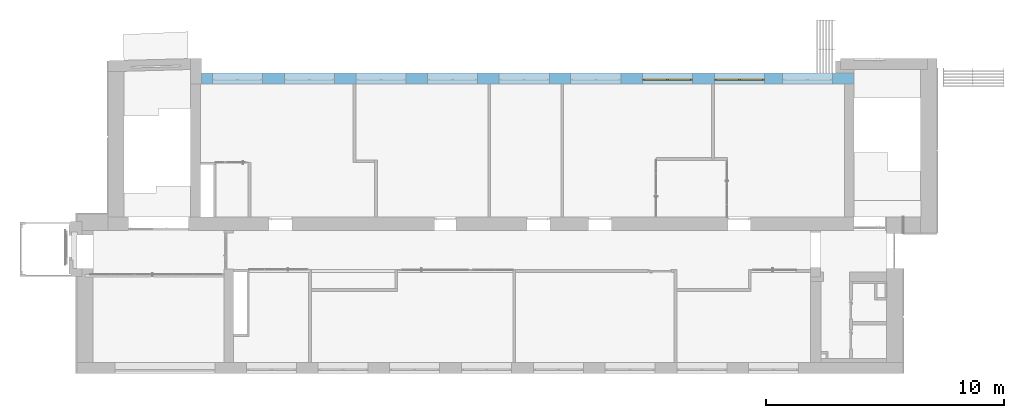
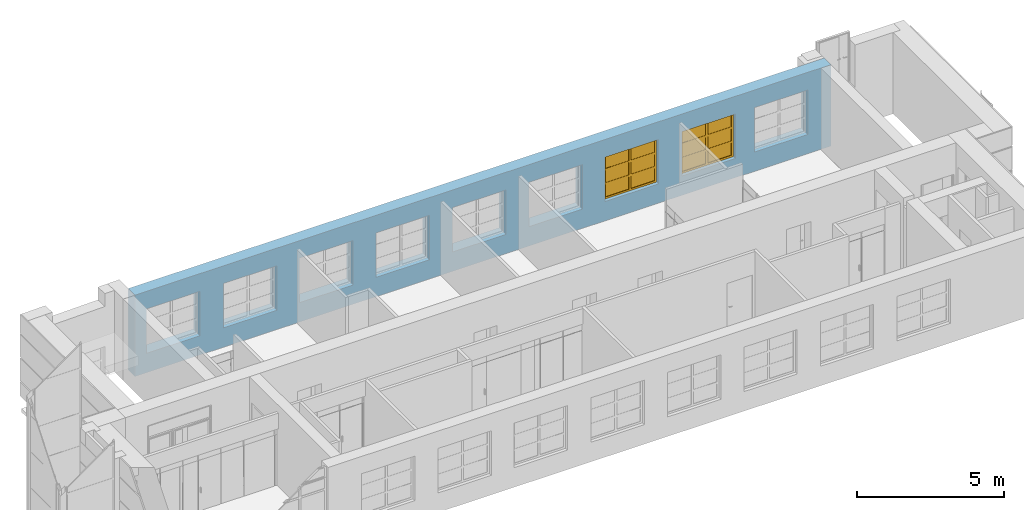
# One storey, part 54 of 66: 2 windows, 9 openings, plus 1 element that does not belong to this part.
"""IFC2X3 building model written with IfcOpenShell, lengths in millimetres."""

import ifcopenshell
import ifcopenshell.guid

model = None  # the IFC model being written
_history = None  # IfcOwnerHistory: only IFC2X3 demands one
_inside = {}  # id of a spatial element -> (the spatial element, [elements in it])
_under = {}  # id of a project, library or spatial element -> (it, [spatial elements below it])
_declared = {}  # id of a project -> (the project, [libraries it declares])
_typed = {}  # id of a type object -> (the type object, [elements of that type])
_made_of = {}  # id of a material, layer set ... -> (it, [elements and type objects made of it])


def new_model(schema):
    """Start an empty IFC model of exactly this schema.

    Asked for "IFC4X3", IfcOpenShell would pick the latest addendum, in which some entities
    have other attributes; the version numbers below select the first issue.
    IFC2X3 requires an IfcOwnerHistory on every rooted entity: one is made here for all.
    """
    global model, _history
    if schema == "IFC4X3":
        model = ifcopenshell.file(schema_version=(4, 3, 0, 0))
    else:
        model = ifcopenshell.file(schema=schema)
    _inside.clear()
    _under.clear()
    _declared.clear()
    _typed.clear()
    _made_of.clear()
    _history = None
    if model.schema == "IFC2X3":
        org = make("IfcOrganization", Name="unknown")
        user = make(
            "IfcPersonAndOrganization",
            ThePerson=make("IfcPerson", FamilyName="unknown"),
            TheOrganization=org,
        )
        app = make(
            "IfcApplication",
            ApplicationDeveloper=org,
            Version="unknown",
            ApplicationFullName="unknown",
            ApplicationIdentifier="unknown",
        )
        _history = make(
            "IfcOwnerHistory",
            OwningUser=user,
            OwningApplication=app,
            ChangeAction="ADDED",
            CreationDate=0,
        )
    return model


def make(cls, **values):
    """One entity of the class cls with the attributes given. An attribute that is None is left unset."""
    return model.create_entity(
        cls, **{name: value for name, value in values.items() if value is not None}
    )


def entity(cls, *values):
    """Any entity or typed value of the class cls, its attributes in the order of the schema. None: left unset."""
    e = model.create_entity(cls)
    for i, value in enumerate(values):
        if value is not None:
            e[i] = value
    return e


def rooted(cls, **values):
    """An entity with a GlobalId (a new one), such as an element, a storey or a relation."""
    return make(cls, GlobalId=ifcopenshell.guid.new(), OwnerHistory=_history, **values)


def si_unit(unit_type, name, prefix=None):
    """IfcSIUnit, for example si_unit("LENGTHUNIT", "METRE", prefix="MILLI")."""
    return make("IfcSIUnit", UnitType=unit_type, Prefix=prefix, Name=name)


def converted_unit(unit_type, name, factor, base, dimensions=None, offset=None):
    """IfcConversionBasedUnit, such as the inch: factor (a typed value) times the base unit."""
    return make(
        "IfcConversionBasedUnit"
        if offset is None
        else "IfcConversionBasedUnitWithOffset",
        ConversionOffset=offset,
        Dimensions=None
        if dimensions is None
        else entity("IfcDimensionalExponents", *dimensions),
        UnitType=unit_type,
        Name=name,
        ConversionFactor=make(
            "IfcMeasureWithUnit", ValueComponent=factor, UnitComponent=base
        ),
    )


def derived_unit(unit_type, elements):
    """IfcDerivedUnit: a product of units, each with its exponent."""
    return make(
        "IfcDerivedUnit",
        Elements=[
            make("IfcDerivedUnitElement", Unit=unit, Exponent=power)
            for unit, power in elements
        ],
        UnitType=unit_type,
    )


def assignment(units):
    """IfcUnitAssignment: the units of a project."""
    return None if units is None else make("IfcUnitAssignment", Units=units)


def point(xyz):
    """IfcCartesianPoint."""
    return None if xyz is None else make("IfcCartesianPoint", Coordinates=xyz)


def direction(xyz):
    """IfcDirection."""
    return None if xyz is None else make("IfcDirection", DirectionRatios=xyz)


def frame(location, z_axis=None, x_axis=None):
    """IfcAxis2Placement3D, a coordinate frame: its origin and axes. An axis left out is left unset."""
    return make(
        "IfcAxis2Placement3D",
        Location=point(location),
        Axis=direction(z_axis),
        RefDirection=direction(x_axis),
    )


def frame_2d(location, x_axis=None):
    """IfcAxis2Placement2D, a coordinate frame in the plane: its origin and x axis."""
    return make(
        "IfcAxis2Placement2D", Location=point(location), RefDirection=direction(x_axis)
    )


def origin():
    """The frame at (0, 0, 0) with its axes left unset."""
    return frame((0.0, 0.0, 0.0))


def origin_2d_with_axis():
    """The frame at (0, 0) in the plane with the x axis (1, 0) written out."""
    return frame_2d((0.0, 0.0), x_axis=(1.0, 0.0))


def place(relative_to, where):
    """IfcLocalPlacement: puts the frame where relative to a parent placement (None: the world)."""
    return make(
        "IfcLocalPlacement", PlacementRelTo=relative_to, RelativePlacement=where
    )


def context(
    kind, dimensions, precision=None, world=None, true_north=None, identifier=None
):
    """IfcGeometricRepresentationContext, for example the 3D "Model" context."""
    return make(
        "IfcGeometricRepresentationContext",
        ContextIdentifier=identifier,
        ContextType=kind,
        CoordinateSpaceDimension=dimensions,
        Precision=precision,
        WorldCoordinateSystem=world,
        TrueNorth=true_north,
    )


def subcontext(parent, identifier, kind, view, scale=None):
    """IfcGeometricRepresentationSubContext, for example "Body" below "Model"."""
    return make(
        "IfcGeometricRepresentationSubContext",
        ContextIdentifier=identifier,
        ContextType=kind,
        ParentContext=parent,
        TargetScale=scale,
        TargetView=view,
    )


def project(units=None, contexts=None):
    """IfcProject with its units and contexts."""
    return rooted(
        "IfcProject",
        Name="project",
        RepresentationContexts=contexts,
        UnitsInContext=assignment(units),
    )


def spatial(cls, under=None, at=None, **own):
    """A site, building, storey or space (cls), placed at a placement, below another one or the project."""
    s = rooted(cls, ObjectPlacement=at, **own)
    if under is not None:
        _under.setdefault(under.id(), (under, []))[1].append(s)
    return s


def profile(cls, at=None, kind="AREA", **sizes):
    """A parametric profile (cls). Its sizes go by their IFC names, for example OverallWidth=200.0."""
    return make(cls, ProfileType=kind, Position=at, **sizes)


def rectangle(**sizes):
    """IfcRectangleProfileDef."""
    return profile("IfcRectangleProfileDef", **sizes)


def extrude(swept, where, along, depth):
    """IfcExtrudedAreaSolid: the profile swept, set in the frame where, extruded along a direction by depth."""
    return make(
        "IfcExtrudedAreaSolid",
        SweptArea=swept,
        Position=where,
        ExtrudedDirection=direction(along),
        Depth=depth,
    )


def faces_of(points, faces, orient=None, outer=None):
    """IfcFace entities. A face is a list of loops; a loop is a list of indices into points, from 0.

    orient and outer hold one flag for each loop. By default every Orientation is true, the
    first loop of a face is its IfcFaceOuterBound and the others are IfcFaceBound.
    """
    made = []
    for i, loops in enumerate(faces):
        bounds = []
        for j, loop in enumerate(loops):
            is_outer = j == 0 if outer is None else outer[i][j]
            bounds.append(
                make(
                    "IfcFaceOuterBound" if is_outer else "IfcFaceBound",
                    Bound=make("IfcPolyLoop", Polygon=[points[k] for k in loop]),
                    Orientation=True if orient is None else orient[i][j],
                )
            )
        made.append(make("IfcFace", Bounds=bounds))
    return made


def face_set(faces, orient=None, outer=None):
    """The faces of one IfcConnectedFaceSet. surface_model builds it on its shared points."""
    return ("IfcConnectedFaceSet", faces, orient, outer)


def surface_model(cls, points, shells):
    """IfcFaceBasedSurfaceModel or IfcShellBasedSurfaceModel (cls): surfaces that need not close."""
    shared = [point(p) for p in points]
    made = [make(c, CfsFaces=faces_of(shared, fs, o, b)) for c, fs, o, b in shells]
    if cls == "IfcFaceBasedSurfaceModel":
        return make(cls, FbsmFaces=made)
    return make(cls, SbsmBoundary=made)


def shape(context_of_items, identifier, shape_type, items):
    """IfcShapeRepresentation: the items that make up one representation, for example the "Body"."""
    return make(
        "IfcShapeRepresentation",
        ContextOfItems=context_of_items,
        RepresentationIdentifier=identifier,
        RepresentationType=shape_type,
        Items=items,
    )


def source(mapping_origin, context_of_items, identifier, shape_type, items):
    """IfcRepresentationMap: a shape defined once, which mapped items show again and again."""
    return make(
        "IfcRepresentationMap",
        MappingOrigin=mapping_origin,
        MappedRepresentation=shape(context_of_items, identifier, shape_type, items),
    )


def transform(
    local_origin,
    x_axis=None,
    y_axis=None,
    z_axis=None,
    scale=None,
    scale2=None,
    scale3=None,
    uniform=True,
):
    """IfcCartesianTransformationOperator3D, or its non-uniform kind. x_axis, y_axis, z_axis: its Axis1, 2, 3."""
    if uniform:
        return make(
            "IfcCartesianTransformationOperator3D",
            Axis1=direction(x_axis),
            Axis2=direction(y_axis),
            LocalOrigin=point(local_origin),
            Scale=scale,
            Axis3=direction(z_axis),
        )
    return make(
        "IfcCartesianTransformationOperator3DnonUniform",
        Axis1=direction(x_axis),
        Axis2=direction(y_axis),
        LocalOrigin=point(local_origin),
        Scale=scale,
        Axis3=direction(z_axis),
        Scale2=scale2,
        Scale3=scale3,
    )


def mapped(mapping_source, mapping_target):
    """IfcMappedItem: shows the shape of a source again, moved by a transform."""
    return make(
        "IfcMappedItem", MappingSource=mapping_source, MappingTarget=mapping_target
    )


def material(Name=None, Category=None):
    """IfcMaterial."""
    return make("IfcMaterial", Name=Name, Category=Category)


def material_list(materials):
    """IfcMaterialList."""
    return make("IfcMaterialList", Materials=materials)


def layer(
    of_material, thickness, ventilated=None, Name=None, Category=None, Priority=None
):
    """IfcMaterialLayer: one layer of a wall or slab, of a material (None: an air gap)."""
    return make(
        "IfcMaterialLayer",
        Material=of_material,
        LayerThickness=thickness,
        IsVentilated=ventilated,
        Name=Name,
        Category=Category,
        Priority=Priority,
    )


def layer_set(layers, Name=None):
    """IfcMaterialLayerSet."""
    return make("IfcMaterialLayerSet", MaterialLayers=layers, LayerSetName=Name)


def layer_usage(for_layer_set, set_direction, sense, offset, extent=None):
    """IfcMaterialLayerSetUsage: how a layer set lies in its element."""
    return make(
        "IfcMaterialLayerSetUsage",
        ForLayerSet=for_layer_set,
        LayerSetDirection=set_direction,
        DirectionSense=sense,
        OffsetFromReferenceLine=offset,
        ReferenceExtent=extent,
    )


def made_of(thing, what):
    """Note that an element or type object is made of a material, layer set ...; save() writes the relation."""
    if what is not None:
        _made_of.setdefault(what.id(), (what, []))[1].append(thing)
    return thing


def type_object(cls, material=None, **own):
    """A type object (cls), such as IfcWallType, which elements share."""
    return made_of(rooted(cls, **own), material)


def type_shapes(of_type, sources):
    """Give a type object the sources (RepresentationMaps) that its elements show as mapped items."""
    of_type.RepresentationMaps = sources


def element(
    cls,
    number,
    at=None,
    inside=None,
    cuts=None,
    type_object=None,
    material=None,
    context=None,
    identifier="Body",
    shape_type=None,
    held_by="IfcProductDefinitionShape",
    body=None,
    shapes=None,
    **own,
):
    """One element of the class cls, such as IfcWall. Its Tag is "e" and its number.

    at: its placement. inside: the storey or other place that contains it. cuts: it is an
    opening in that element (IfcRelVoidsElement). A single representation is given by context,
    identifier, shape_type and body (its items); several are given by shapes. held_by: the class
    of the entity that holds the representations. save() writes the other relations.
    """
    e = rooted(cls, Tag="e%d" % number, ObjectPlacement=at, **own)
    if body is not None:
        shapes = [shape(context, identifier, shape_type, body)]
    if shapes is not None:
        e.Representation = make(held_by, Representations=shapes)
    if inside is not None:
        _inside.setdefault(inside.id(), (inside, []))[1].append(e)
    if cuts is not None:
        rooted(
            "IfcRelVoidsElement", RelatingBuildingElement=cuts, RelatedOpeningElement=e
        )
    if type_object is not None:
        _typed.setdefault(type_object.id(), (type_object, []))[1].append(e)
    return made_of(e, material)


def fill(opening, filler):
    """IfcRelFillsElement: the door or window that sits in an opening."""
    return rooted(
        "IfcRelFillsElement",
        RelatingOpeningElement=opening,
        RelatedBuildingElement=filler,
    )


def aggregate(whole, parts):
    """IfcRelAggregates: a whole, such as a stair, and the parts it consists of."""
    return rooted("IfcRelAggregates", RelatingObject=whole, RelatedObjects=parts)


def save(model, path):
    """Write the relations noted so far, then the file.

    IfcRelAggregates (storeys below a building ...), IfcRelContainedInSpatialStructure (elements
    in a storey), IfcRelDefinesByType, IfcRelAssociatesMaterial and IfcRelDeclares: one each for
    every whole, place, type object, material and project.
    """
    for whole, parts in _under.values():
        aggregate(whole, parts)
    for where, things in _inside.values():
        rooted(
            "IfcRelContainedInSpatialStructure",
            RelatedElements=things,
            RelatingStructure=where,
        )
    for kind, things in _typed.values():
        rooted("IfcRelDefinesByType", RelatedObjects=things, RelatingType=kind)
    for what, things in _made_of.values():
        rooted("IfcRelAssociatesMaterial", RelatedObjects=things, RelatingMaterial=what)
    for by, libraries in _declared.values():
        rooted("IfcRelDeclares", RelatingContext=by, RelatedDefinitions=libraries)
    model.write(path)


model = new_model("IFC2X3")

# Units and contexts
model_context = context("Model", 3, precision=0.01, world=origin(), true_north=direction((6.12303176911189e-17, 1.0)))
body_context = subcontext(model_context, "Body", "Model", "MODEL_VIEW")
ifc_project = project(units=[si_unit("LENGTHUNIT", "METRE", prefix="MILLI"), si_unit("AREAUNIT", "SQUARE_METRE"), si_unit("VOLUMEUNIT", "CUBIC_METRE"), converted_unit("PLANEANGLEUNIT", "DEGREE", entity("IfcRatioMeasure", 0.0174532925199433), si_unit("PLANEANGLEUNIT", "RADIAN"), dimensions=[0, 0, 0, 0, 0, 0, 0]), si_unit("MASSUNIT", "GRAM", prefix="KILO"), derived_unit("MASSDENSITYUNIT", [(si_unit("MASSUNIT", "GRAM", prefix="KILO"), 1), (si_unit("LENGTHUNIT", "METRE"), -3)]), si_unit("TIMEUNIT", "SECOND"), si_unit("FREQUENCYUNIT", "HERTZ"), si_unit("THERMODYNAMICTEMPERATUREUNIT", "DEGREE_CELSIUS"), derived_unit("THERMALTRANSMITTANCEUNIT", [(si_unit("MASSUNIT", "GRAM", prefix="KILO"), 1), (si_unit("THERMODYNAMICTEMPERATUREUNIT", "KELVIN"), -1), (si_unit("TIMEUNIT", "SECOND"), -3)]), derived_unit("VOLUMETRICFLOWRATEUNIT", [(si_unit("LENGTHUNIT", "METRE"), 3), (si_unit("TIMEUNIT", "SECOND"), -1)]), si_unit("ELECTRICCURRENTUNIT", "AMPERE"), si_unit("ELECTRICVOLTAGEUNIT", "VOLT"), si_unit("POWERUNIT", "WATT"), si_unit("FORCEUNIT", "NEWTON", prefix="KILO"), si_unit("ILLUMINANCEUNIT", "LUX"), si_unit("LUMINOUSFLUXUNIT", "LUMEN"), si_unit("LUMINOUSINTENSITYUNIT", "CANDELA"), derived_unit("USERDEFINED", [(si_unit("MASSUNIT", "GRAM", prefix="KILO"), -1), (si_unit("LENGTHUNIT", "METRE"), -2), (si_unit("TIMEUNIT", "SECOND"), 3), (si_unit("LUMINOUSFLUXUNIT", "LUMEN"), 1)]), derived_unit("LINEARVELOCITYUNIT", [(si_unit("LENGTHUNIT", "METRE"), 1), (si_unit("TIMEUNIT", "SECOND"), -1)]), si_unit("PRESSUREUNIT", "PASCAL"), derived_unit("USERDEFINED", [(si_unit("LENGTHUNIT", "METRE"), -2), (si_unit("MASSUNIT", "GRAM", prefix="KILO"), 1), (si_unit("TIMEUNIT", "SECOND"), -2)])], contexts=[model_context])

# Site, building, storey
site_placement = place(None, frame((-151.875543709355, 2715.0, 0.0)))
site = spatial("IfcSite", under=ifc_project, at=site_placement, Name="Surface", CompositionType="ELEMENT")
building_placement = place(site_placement, origin())
building = spatial("IfcBuilding", under=site, at=building_placement, CompositionType="ELEMENT")
storey_placement = place(building_placement, frame((0.0, 0.0, 3350.0)))
storey = spatial("IfcBuildingStorey", under=building, at=storey_placement, Name="2 korrus", CompositionType="ELEMENT", Elevation=3350.00000000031)

# Wall, openings, windows
ifc_material_1 = material(Name="Brick, Common")
ifc_layer_1 = layer(ifc_material_1, 440.0)
ifc_material_2 = material(Name="__Kips GN13_tava")
ifc_layer_2 = layer(ifc_material_2, 20.0)
ifc_layer_set = layer_set([ifc_layer_1, ifc_layer_2], Name="Basic Wall:VS-1")
ifc_layer_usage = layer_usage(ifc_layer_set, "AXIS2", "POSITIVE", -230.0)
wall_type = type_object("IfcWallType", Name="Basic Wall:VS-1", PredefinedType="STANDARD", material=ifc_layer_set)
wall_placement = place(storey_placement, frame((32372.6162682, 12380.0, 0.0), z_axis=(0.0, 0.0, 1.0), x_axis=(-1.0, 0.0, 0.0)))
wall = element("IfcWallStandardCase", 1, at=wall_placement, inside=storey, type_object=wall_type, material=ifc_layer_usage, Name="SEIN - 005", ObjectType="Basic Wall:VS-1", context=body_context, shape_type="SweptSolid", body=[
    extrude(rectangle(XDim=27372.5418693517, YDim=459.999999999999, at=frame_2d((13686.2709346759, 0.0), x_axis=(-1.0, 0.0))), origin(), (0.0, 0.0, 1.0), 3380.43203354),
])
opening_1_placement = place(wall_placement, frame((32372.6162682, 12380.0, 0.0), z_axis=(0.0, 0.0, 1.0), x_axis=(-1.0, 0.0, 0.0)))
element("IfcOpeningElement", 2, at=opening_1_placement, cuts=wall, Name="SEIN - 005", ObjectType="Opening", context=body_context, shape_type="SweptSolid", body=[
    extrude(rectangle(XDim=1850.0, YDim=2100.0, at=frame_2d((0.0, -5.6843418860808e-13), x_axis=(1.0, 0.0))), frame((6512.84935535, 13077.9, 1725.0), z_axis=(0.0, -1.0, 0.0), x_axis=(0.0, 0.0, 1.0)), (0.0, 0.0, 1.0), 1393.8),
])
opening_2_placement = place(wall_placement, frame((32372.6162682, 12380.0, 0.0), z_axis=(0.0, 0.0, 1.0), x_axis=(-1.0, 0.0, 0.0)))
element("IfcOpeningElement", 3, at=opening_2_placement, cuts=wall, Name="SEIN - 005", ObjectType="Opening", context=body_context, shape_type="SweptSolid", body=[
    extrude(rectangle(XDim=1850.0, YDim=2100.0, at=frame_2d((0.0, -1.02318153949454e-12), x_axis=(1.0, 0.0))), frame((9532.84935535, 13077.9, 1725.0), z_axis=(0.0, -1.0, 0.0), x_axis=(0.0, 0.0, 1.0)), (0.0, 0.0, 1.0), 1393.8),
])
opening_3_placement = place(wall_placement, frame((32372.6162682, 12380.0, 0.0), z_axis=(0.0, 0.0, 1.0), x_axis=(-1.0, 0.0, 0.0)))
element("IfcOpeningElement", 4, at=opening_3_placement, cuts=wall, Name="SEIN - 005", ObjectType="Opening", context=body_context, shape_type="SweptSolid", body=[
    extrude(rectangle(XDim=1850.0, YDim=2100.0, at=origin_2d_with_axis()), frame((12532.84935535, 13077.9, 1725.0), z_axis=(0.0, -1.0, 0.0), x_axis=(0.0, 0.0, 1.0)), (0.0, 0.0, 1.0), 1393.8),
])
opening_4_placement = place(wall_placement, frame((32372.6162682, 12380.0, 0.0), z_axis=(0.0, 0.0, 1.0), x_axis=(-1.0, 0.0, 0.0)))
element("IfcOpeningElement", 5, at=opening_4_placement, cuts=wall, Name="SEIN - 005", ObjectType="Opening", context=body_context, shape_type="SweptSolid", body=[
    extrude(rectangle(XDim=1850.0, YDim=2100.0, at=origin_2d_with_axis()), frame((15532.84935531, 13077.9, 1725.0), z_axis=(0.0, -1.0, 0.0), x_axis=(0.0, 0.0, 1.0)), (0.0, 0.0, 1.0), 1393.8),
])
opening_5_placement = place(wall_placement, frame((32372.6162682, 12380.0, 0.0), z_axis=(0.0, 0.0, 1.0), x_axis=(-1.0, 0.0, 0.0)))
element("IfcOpeningElement", 6, at=opening_5_placement, cuts=wall, Name="SEIN - 005", ObjectType="Opening", context=body_context, shape_type="SweptSolid", body=[
    extrude(rectangle(XDim=1850.0, YDim=2100.0, at=origin_2d_with_axis()), frame((18542.84935531, 13077.9, 1725.0), z_axis=(0.0, -1.0, 0.0), x_axis=(0.0, 0.0, 1.0)), (0.0, 0.0, 1.0), 1393.8),
])
opening_6_placement = place(wall_placement, frame((32372.6162682, 12380.0, 0.0), z_axis=(0.0, 0.0, 1.0), x_axis=(-1.0, 0.0, 0.0)))
element("IfcOpeningElement", 7, at=opening_6_placement, cuts=wall, Name="SEIN - 005", ObjectType="Opening", context=body_context, shape_type="SweptSolid", body=[
    extrude(rectangle(XDim=1850.0, YDim=2100.0, at=origin_2d_with_axis()), frame((21543.05309771, 13077.9, 1725.0), z_axis=(0.0, -1.0, 0.0), x_axis=(0.0, 0.0, 1.0)), (0.0, 0.0, 1.0), 1393.8),
])
opening_7_placement = place(wall_placement, frame((32372.6162682, 12380.0, 0.0), z_axis=(0.0, 0.0, 1.0), x_axis=(-1.0, 0.0, 0.0)))
opening_7 = element("IfcOpeningElement", 8, at=opening_7_placement, cuts=wall, Name="SEIN - 005", ObjectType="Opening", context=body_context, shape_type="SweptSolid", body=[
    extrude(rectangle(XDim=1850.0, YDim=2100.0, at=origin_2d_with_axis()), frame((24543.05309771, 13077.9, 1725.0), z_axis=(0.0, -1.0, 0.0), x_axis=(0.0, 0.0, 1.0)), (0.0, 0.0, 1.0), 1393.8),
])
opening_8_placement = place(wall_placement, frame((32372.6162682, 12380.0, 0.0), z_axis=(0.0, 0.0, 1.0), x_axis=(-1.0, 0.0, 0.0)))
opening_8 = element("IfcOpeningElement", 9, at=opening_8_placement, cuts=wall, Name="SEIN - 005", ObjectType="Opening", context=body_context, shape_type="SweptSolid", body=[
    extrude(rectangle(XDim=1850.0, YDim=2100.0, at=frame_2d((0.0, 4.32009983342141e-12), x_axis=(1.0, 0.0))), frame((27563.05309771, 13077.9, 1725.0), z_axis=(0.0, -1.0, 0.0), x_axis=(0.0, 0.0, 1.0)), (0.0, 0.0, 1.0), 1393.8),
])
opening_9_placement = place(wall_placement, frame((32372.6162682, 12380.0, 0.0), z_axis=(0.0, 0.0, 1.0), x_axis=(-1.0, 0.0, 0.0)))
element("IfcOpeningElement", 10, at=opening_9_placement, cuts=wall, Name="SEIN - 005", ObjectType="Opening", context=body_context, shape_type="SweptSolid", body=[
    extrude(rectangle(XDim=1850.0, YDim=2100.0, at=origin_2d_with_axis()), frame((30412.57293081, 13077.9, 1725.0), z_axis=(0.0, -1.0, 0.0), x_axis=(0.0, 0.0, 1.0)), (0.0, 0.0, 1.0), 1393.8),
])
ifc_material_3 = material(Name="Paint - Titanium White")
ifc_material_4 = material(Name="Paint - Dark Gray")
ifc_material_5 = material(Name="Glass - Clear Fast")
ifc_material_list_1 = material_list([ifc_material_3, ifc_material_4, ifc_material_5])
ifc_material_list_2 = material_list([ifc_material_3, ifc_material_4, ifc_material_5])
window_style = type_object("IfcWindowStyle", Name="Aken_1850x2100", ConstructionType="NOTDEFINED", OperationType="DOUBLE_PANEL_VERTICAL", ParameterTakesPrecedence=False, Sizeable=False, material=ifc_material_list_2)
shared_shape = source(origin(), body_context, "Body", "SurfaceModel", [
    surface_model("IfcFaceBasedSurfaceModel", [(80.0, -665.9, 1770.0), (80.0, -620.9, 1770.0), (0.0, -620.9, 1770.0), (0.0, -665.9, 1770.0), (80.0, -665.9, 80.0), (80.0, -620.9, 80.0), (80.0, -620.9, 1770.0), (80.0, -665.9, 1770.0), (80.0, -620.9, 1770.0), (80.0, -620.9, 80.0), (0.0, -620.9, 80.0), (0.0, -620.9, 1770.0), (0.0, -665.9, 1770.0), (0.0, -620.9, 1770.0), (0.0, -620.9, 80.0), (0.0, -665.9, 80.0), (80.0, -665.9, 1770.0), (0.0, -665.9, 1770.0), (0.0, -665.9, 80.0), (80.0, -665.9, 80.0), (0.0, -665.9, 80.0), (0.0, -620.9, 80.0), (80.0, -620.9, 80.0), (80.0, -665.9, 80.0), (2020.0, -665.9, 80.0), (2020.0, -620.9, 80.0), (2100.0, -620.9, 80.0), (2100.0, -665.9, 80.0), (2020.0, -665.9, 1770.0), (2020.0, -620.9, 1770.0), (2020.0, -620.9, 80.0), (2020.0, -665.9, 80.0), (2020.0, -620.9, 80.0), (2020.0, -620.9, 1770.0), (2100.0, -620.9, 1770.0), (2100.0, -620.9, 80.0), (2100.0, -665.9, 80.0), (2100.0, -620.9, 80.0), (2100.0, -620.9, 1770.0), (2100.0, -665.9, 1770.0), (2020.0, -665.9, 80.0), (2100.0, -665.9, 80.0), (2100.0, -665.9, 1770.0), (2020.0, -665.9, 1770.0), (2100.0, -665.9, 1770.0), (2100.0, -620.9, 1770.0), (2020.0, -620.9, 1770.0), (2020.0, -665.9, 1770.0), (1010.0, -665.9, 80.0), (1010.0, -620.9, 80.0), (1090.0, -620.9, 80.0), (1090.0, -665.9, 80.0), (1010.0, -665.9, 1770.0), (1010.0, -620.9, 1770.0), (1010.0, -620.9, 80.0), (1010.0, -665.9, 80.0), (1010.0, -620.9, 80.0), (1010.0, -620.9, 1770.0), (1090.0, -620.9, 1770.0), (1090.0, -620.9, 80.0), (1090.0, -665.9, 80.0), (1090.0, -620.9, 80.0), (1090.0, -620.9, 1770.0), (1090.0, -665.9, 1770.0), (1010.0, -665.9, 80.0), (1090.0, -665.9, 80.0), (1090.0, -665.9, 1770.0), (1010.0, -665.9, 1770.0), (1090.0, -665.9, 1770.0), (1090.0, -620.9, 1770.0), (1010.0, -620.9, 1770.0), (1010.0, -665.9, 1770.0), (80.0, -665.9, 80.0), (80.0, -620.9, 80.0), (0.0, -620.9, 80.0), (0.0, -665.9, 80.0), (1010.0, -665.9, 80.0), (1010.0, -620.9, 80.0), (80.0, -620.9, 80.0), (80.0, -665.9, 80.0), (80.0, -620.9, 80.0), (1010.0, -620.9, 80.0), (1090.0, -620.9, 80.0), (2020.0, -620.9, 80.0), (2100.0, -620.9, 80.0), (2100.0, -620.9, 0.0), (0.0, -620.9, 0.0), (0.0, -620.9, 80.0), (0.0, -665.9, 80.0), (0.0, -620.9, 80.0), (0.0, -620.9, 0.0), (0.0, -665.9, 0.0), (80.0, -665.9, 80.0), (0.0, -665.9, 80.0), (0.0, -665.9, 0.0), (2100.0, -665.9, 0.0), (2100.0, -665.9, 80.0), (2020.0, -665.9, 80.0), (1090.0, -665.9, 80.0), (1010.0, -665.9, 80.0), (1090.0, -665.9, 80.0), (1090.0, -620.9, 80.0), (1010.0, -620.9, 80.0), (1010.0, -665.9, 80.0), (2020.0, -665.9, 80.0), (2020.0, -620.9, 80.0), (1090.0, -620.9, 80.0), (1090.0, -665.9, 80.0), (2100.0, -665.9, 80.0), (2100.0, -620.9, 80.0), (2020.0, -620.9, 80.0), (2020.0, -665.9, 80.0), (2100.0, -665.9, 0.0), (2100.0, -620.9, 0.0), (2100.0, -620.9, 80.0), (2100.0, -665.9, 80.0), (0.0, -665.9, 0.0), (0.0, -620.9, 0.0), (2100.0, -620.9, 0.0), (2100.0, -665.9, 0.0), (1010.0, -665.9, 1770.0), (1010.0, -620.9, 1770.0), (1090.0, -620.9, 1770.0), (1090.0, -665.9, 1770.0), (80.0, -665.9, 1770.0), (80.0, -620.9, 1770.0), (1010.0, -620.9, 1770.0), (1010.0, -665.9, 1770.0), (1010.0, -620.9, 1770.0), (80.0, -620.9, 1770.0), (0.0, -620.9, 1770.0), (0.0, -620.9, 1850.0), (2100.0, -620.9, 1850.0), (2100.0, -620.9, 1770.0), (2020.0, -620.9, 1770.0), (1090.0, -620.9, 1770.0), (1090.0, -665.9, 1770.0), (1090.0, -620.9, 1770.0), (2020.0, -620.9, 1770.0), (2020.0, -665.9, 1770.0), (1010.0, -665.9, 1770.0), (1090.0, -665.9, 1770.0), (2020.0, -665.9, 1770.0), (2100.0, -665.9, 1770.0), (2100.0, -665.9, 1850.0), (0.0, -665.9, 1850.0), (0.0, -665.9, 1770.0), (80.0, -665.9, 1770.0), (0.0, -665.9, 1770.0), (0.0, -620.9, 1770.0), (80.0, -620.9, 1770.0), (80.0, -665.9, 1770.0), (0.0, -665.9, 1850.0), (0.0, -620.9, 1850.0), (0.0, -620.9, 1770.0), (0.0, -665.9, 1770.0), (2100.0, -665.9, 1850.0), (2100.0, -620.9, 1850.0), (0.0, -620.9, 1850.0), (0.0, -665.9, 1850.0), (2100.0, -665.9, 1770.0), (2100.0, -620.9, 1770.0), (2100.0, -620.9, 1850.0), (2100.0, -665.9, 1850.0), (2020.0, -665.9, 1770.0), (2020.0, -620.9, 1770.0), (2100.0, -620.9, 1770.0), (2100.0, -665.9, 1770.0), (80.0, -640.9, 590.0), (80.0, -630.9, 590.0), (1010.0, -630.9, 590.0), (1010.0, -640.9, 590.0), (80.0, -640.9, 670.0), (80.0, -630.9, 670.0), (80.0, -630.9, 590.0), (80.0, -640.9, 590.0), (80.0, -630.9, 590.0), (80.0, -630.9, 670.0), (1010.0, -630.9, 670.0), (1010.0, -630.9, 590.0), (1010.0, -640.9, 590.0), (1010.0, -630.9, 590.0), (1010.0, -630.9, 670.0), (1010.0, -640.9, 670.0), (80.0, -640.9, 590.0), (1010.0, -640.9, 590.0), (1010.0, -640.9, 670.0), (80.0, -640.9, 670.0), (1010.0, -640.9, 670.0), (1010.0, -630.9, 670.0), (80.0, -630.9, 670.0), (80.0, -640.9, 670.0), (80.0, -640.9, 1180.0), (80.0, -630.9, 1180.0), (1010.0, -630.9, 1180.0), (1010.0, -640.9, 1180.0), (80.0, -640.9, 1260.0), (80.0, -630.9, 1260.0), (80.0, -630.9, 1180.0), (80.0, -640.9, 1180.0), (80.0, -630.9, 1180.0), (80.0, -630.9, 1260.0), (1010.0, -630.9, 1260.0), (1010.0, -630.9, 1180.0), (1010.0, -640.9, 1180.0), (1010.0, -630.9, 1180.0), (1010.0, -630.9, 1260.0), (1010.0, -640.9, 1260.0), (80.0, -640.9, 1180.0), (1010.0, -640.9, 1180.0), (1010.0, -640.9, 1260.0), (80.0, -640.9, 1260.0), (1010.0, -640.9, 1260.0), (1010.0, -630.9, 1260.0), (80.0, -630.9, 1260.0), (80.0, -640.9, 1260.0), (1090.0, -640.9, 590.0), (1090.0, -630.9, 590.0), (2020.0, -630.9, 590.0), (2020.0, -640.9, 590.0), (1090.0, -640.9, 670.0), (1090.0, -630.9, 670.0), (1090.0, -630.9, 590.0), (1090.0, -640.9, 590.0), (1090.0, -630.9, 590.0), (1090.0, -630.9, 670.0), (2020.0, -630.9, 670.0), (2020.0, -630.9, 590.0), (2020.0, -640.9, 590.0), (2020.0, -630.9, 590.0), (2020.0, -630.9, 670.0), (2020.0, -640.9, 670.0), (1090.0, -640.9, 590.0), (2020.0, -640.9, 590.0), (2020.0, -640.9, 670.0), (1090.0, -640.9, 670.0), (2020.0, -640.9, 670.0), (2020.0, -630.9, 670.0), (1090.0, -630.9, 670.0), (1090.0, -640.9, 670.0), (1090.0, -640.9, 1180.0), (1090.0, -630.9, 1180.0), (2020.0, -630.9, 1180.0), (2020.0, -640.9, 1180.0), (1090.0, -640.9, 1260.0), (1090.0, -630.9, 1260.0), (1090.0, -630.9, 1180.0), (1090.0, -640.9, 1180.0), (1090.0, -630.9, 1180.0), (1090.0, -630.9, 1260.0), (2020.0, -630.9, 1260.0), (2020.0, -630.9, 1180.0), (2020.0, -640.9, 1180.0), (2020.0, -630.9, 1180.0), (2020.0, -630.9, 1260.0), (2020.0, -640.9, 1260.0), (1090.0, -640.9, 1180.0), (2020.0, -640.9, 1180.0), (2020.0, -640.9, 1260.0), (1090.0, -640.9, 1260.0), (2020.0, -640.9, 1260.0), (2020.0, -630.9, 1260.0), (1090.0, -630.9, 1260.0), (1090.0, -640.9, 1260.0)], [face_set([[[0, 1, 2, 3]]]), face_set([[[4, 5, 6, 7]]]), face_set([[[8, 9, 10, 11]]]), face_set([[[12, 13, 14, 15]]]), face_set([[[16, 17, 18, 19]]]), face_set([[[20, 21, 22, 23]]]), face_set([[[24, 25, 26, 27]]]), face_set([[[28, 29, 30, 31]]]), face_set([[[32, 33, 34, 35]]]), face_set([[[36, 37, 38, 39]]]), face_set([[[40, 41, 42, 43]]]), face_set([[[44, 45, 46, 47]]]), face_set([[[48, 49, 50, 51]]]), face_set([[[52, 53, 54, 55]]]), face_set([[[56, 57, 58, 59]]]), face_set([[[60, 61, 62, 63]]]), face_set([[[64, 65, 66, 67]]]), face_set([[[68, 69, 70, 71]]]), face_set([[[72, 73, 74, 75]]]), face_set([[[76, 77, 78, 79]]]), face_set([[[80, 81, 82, 83, 84, 85, 86, 87]]]), face_set([[[88, 89, 90, 91]]]), face_set([[[92, 93, 94, 95, 96, 97, 98, 99]]]), face_set([[[100, 101, 102, 103]]]), face_set([[[104, 105, 106, 107]]]), face_set([[[108, 109, 110, 111]]]), face_set([[[112, 113, 114, 115]]]), face_set([[[116, 117, 118, 119]]]), face_set([[[120, 121, 122, 123]]]), face_set([[[124, 125, 126, 127]]]), face_set([[[128, 129, 130, 131, 132, 133, 134, 135]]]), face_set([[[136, 137, 138, 139]]]), face_set([[[140, 141, 142, 143, 144, 145, 146, 147]]]), face_set([[[148, 149, 150, 151]]]), face_set([[[152, 153, 154, 155]]]), face_set([[[156, 157, 158, 159]]]), face_set([[[160, 161, 162, 163]]]), face_set([[[164, 165, 166, 167]]]), face_set([[[168, 169, 170, 171]]]), face_set([[[172, 173, 174, 175]]]), face_set([[[176, 177, 178, 179]]]), face_set([[[180, 181, 182, 183]]]), face_set([[[184, 185, 186, 187]]]), face_set([[[188, 189, 190, 191]]]), face_set([[[192, 193, 194, 195]]]), face_set([[[196, 197, 198, 199]]]), face_set([[[200, 201, 202, 203]]]), face_set([[[204, 205, 206, 207]]]), face_set([[[208, 209, 210, 211]]]), face_set([[[212, 213, 214, 215]]]), face_set([[[216, 217, 218, 219]]]), face_set([[[220, 221, 222, 223]]]), face_set([[[224, 225, 226, 227]]]), face_set([[[228, 229, 230, 231]]]), face_set([[[232, 233, 234, 235]]]), face_set([[[236, 237, 238, 239]]]), face_set([[[240, 241, 242, 243]]]), face_set([[[244, 245, 246, 247]]]), face_set([[[248, 249, 250, 251]]]), face_set([[[252, 253, 254, 255]]]), face_set([[[256, 257, 258, 259]]]), face_set([[[260, 261, 262, 263]]])]),
    surface_model("IfcFaceBasedSurfaceModel", [(80.0, -620.9, 1770.0), (80.0, -595.9, 1770.0), (0.0, -595.9, 1770.0), (0.0, -620.9, 1770.0), (80.0, -620.9, 80.0), (80.0, -595.9, 80.0), (80.0, -595.9, 1770.0), (80.0, -620.9, 1770.0), (80.0, -595.9, 1770.0), (80.0, -595.9, 80.0), (0.0, -595.9, 80.0), (0.0, -595.9, 1770.0), (0.0, -620.9, 1770.0), (0.0, -595.9, 1770.0), (0.0, -595.9, 80.0), (0.0, -620.9, 80.0), (80.0, -620.9, 1770.0), (0.0, -620.9, 1770.0), (0.0, -620.9, 80.0), (80.0, -620.9, 80.0), (0.0, -620.9, 80.0), (0.0, -595.9, 80.0), (80.0, -595.9, 80.0), (80.0, -620.9, 80.0), (2020.0, -620.9, 80.0), (2020.0, -595.9, 80.0), (2100.0, -595.9, 80.0), (2100.0, -620.9, 80.0), (2020.0, -620.9, 1770.0), (2020.0, -595.9, 1770.0), (2020.0, -595.9, 80.0), (2020.0, -620.9, 80.0), (2020.0, -595.9, 80.0), (2020.0, -595.9, 1770.0), (2100.0, -595.9, 1770.0), (2100.0, -595.9, 80.0), (2100.0, -620.9, 80.0), (2100.0, -595.9, 80.0), (2100.0, -595.9, 1770.0), (2100.0, -620.9, 1770.0), (2020.0, -620.9, 80.0), (2100.0, -620.9, 80.0), (2100.0, -620.9, 1770.0), (2020.0, -620.9, 1770.0), (2100.0, -620.9, 1770.0), (2100.0, -595.9, 1770.0), (2020.0, -595.9, 1770.0), (2020.0, -620.9, 1770.0), (1010.0, -620.9, 80.0), (1010.0, -595.9, 80.0), (1090.0, -595.9, 80.0), (1090.0, -620.9, 80.0), (1010.0, -620.9, 1770.0), (1010.0, -595.9, 1770.0), (1010.0, -595.9, 80.0), (1010.0, -620.9, 80.0), (1010.0, -595.9, 80.0), (1010.0, -595.9, 1770.0), (1090.0, -595.9, 1770.0), (1090.0, -595.9, 80.0), (1090.0, -620.9, 80.0), (1090.0, -595.9, 80.0), (1090.0, -595.9, 1770.0), (1090.0, -620.9, 1770.0), (1010.0, -620.9, 80.0), (1090.0, -620.9, 80.0), (1090.0, -620.9, 1770.0), (1010.0, -620.9, 1770.0), (1090.0, -620.9, 1770.0), (1090.0, -595.9, 1770.0), (1010.0, -595.9, 1770.0), (1010.0, -620.9, 1770.0), (80.0, -620.9, 80.0), (80.0, -595.9, 80.0), (0.0, -595.9, 80.0), (0.0, -620.9, 80.0), (1010.0, -620.9, 80.0), (1010.0, -595.9, 80.0), (80.0, -595.9, 80.0), (80.0, -620.9, 80.0), (80.0, -595.9, 80.0), (1010.0, -595.9, 80.0), (1090.0, -595.9, 80.0), (2020.0, -595.9, 80.0), (2100.0, -595.9, 80.0), (2100.0, -595.9, 0.0), (0.0, -595.9, 0.0), (0.0, -595.9, 80.0), (0.0, -620.9, 80.0), (0.0, -595.9, 80.0), (0.0, -595.9, 0.0), (0.0, -620.9, 0.0), (80.0, -620.9, 80.0), (0.0, -620.9, 80.0), (0.0, -620.9, 0.0), (2100.0, -620.9, 0.0), (2100.0, -620.9, 80.0), (2020.0, -620.9, 80.0), (1090.0, -620.9, 80.0), (1010.0, -620.9, 80.0), (1090.0, -620.9, 80.0), (1090.0, -595.9, 80.0), (1010.0, -595.9, 80.0), (1010.0, -620.9, 80.0), (2020.0, -620.9, 80.0), (2020.0, -595.9, 80.0), (1090.0, -595.9, 80.0), (1090.0, -620.9, 80.0), (2100.0, -620.9, 80.0), (2100.0, -595.9, 80.0), (2020.0, -595.9, 80.0), (2020.0, -620.9, 80.0), (2100.0, -620.9, 0.0), (2100.0, -595.9, 0.0), (2100.0, -595.9, 80.0), (2100.0, -620.9, 80.0), (0.0, -620.9, 0.0), (0.0, -595.9, 0.0), (2100.0, -595.9, 0.0), (2100.0, -620.9, 0.0), (1010.0, -620.9, 1770.0), (1010.0, -595.9, 1770.0), (1090.0, -595.9, 1770.0), (1090.0, -620.9, 1770.0), (80.0, -620.9, 1770.0), (80.0, -595.9, 1770.0), (1010.0, -595.9, 1770.0), (1010.0, -620.9, 1770.0), (1010.0, -595.9, 1770.0), (80.0, -595.9, 1770.0), (0.0, -595.9, 1770.0), (0.0, -595.9, 1850.0), (2100.0, -595.9, 1850.0), (2100.0, -595.9, 1770.0), (2020.0, -595.9, 1770.0), (1090.0, -595.9, 1770.0), (1090.0, -620.9, 1770.0), (1090.0, -595.9, 1770.0), (2020.0, -595.9, 1770.0), (2020.0, -620.9, 1770.0), (1010.0, -620.9, 1770.0), (1090.0, -620.9, 1770.0), (2020.0, -620.9, 1770.0), (2100.0, -620.9, 1770.0), (2100.0, -620.9, 1850.0), (0.0, -620.9, 1850.0), (0.0, -620.9, 1770.0), (80.0, -620.9, 1770.0), (0.0, -620.9, 1770.0), (0.0, -595.9, 1770.0), (80.0, -595.9, 1770.0), (80.0, -620.9, 1770.0), (0.0, -620.9, 1850.0), (0.0, -595.9, 1850.0), (0.0, -595.9, 1770.0), (0.0, -620.9, 1770.0), (2100.0, -620.9, 1850.0), (2100.0, -595.9, 1850.0), (0.0, -595.9, 1850.0), (0.0, -620.9, 1850.0), (2100.0, -620.9, 1770.0), (2100.0, -595.9, 1770.0), (2100.0, -595.9, 1850.0), (2100.0, -620.9, 1850.0), (2020.0, -620.9, 1770.0), (2020.0, -595.9, 1770.0), (2100.0, -595.9, 1770.0), (2100.0, -620.9, 1770.0), (80.0, -630.9, 590.0), (80.0, -600.9, 590.0), (1010.0, -600.9, 590.0), (1010.0, -630.9, 590.0), (80.0, -630.9, 670.0), (80.0, -600.9, 670.0), (80.0, -600.9, 590.0), (80.0, -630.9, 590.0), (80.0, -600.9, 590.0), (80.0, -600.9, 670.0), (1010.0, -600.9, 670.0), (1010.0, -600.9, 590.0), (1010.0, -630.9, 590.0), (1010.0, -600.9, 590.0), (1010.0, -600.9, 670.0), (1010.0, -630.9, 670.0), (80.0, -630.9, 590.0), (1010.0, -630.9, 590.0), (1010.0, -630.9, 670.0), (80.0, -630.9, 670.0), (1010.0, -630.9, 670.0), (1010.0, -600.9, 670.0), (80.0, -600.9, 670.0), (80.0, -630.9, 670.0), (80.0, -630.9, 1180.0), (80.0, -600.9, 1180.0), (1010.0, -600.9, 1180.0), (1010.0, -630.9, 1180.0), (80.0, -630.9, 1260.0), (80.0, -600.9, 1260.0), (80.0, -600.9, 1180.0), (80.0, -630.9, 1180.0), (80.0, -600.9, 1180.0), (80.0, -600.9, 1260.0), (1010.0, -600.9, 1260.0), (1010.0, -600.9, 1180.0), (1010.0, -630.9, 1180.0), (1010.0, -600.9, 1180.0), (1010.0, -600.9, 1260.0), (1010.0, -630.9, 1260.0), (80.0, -630.9, 1180.0), (1010.0, -630.9, 1180.0), (1010.0, -630.9, 1260.0), (80.0, -630.9, 1260.0), (1010.0, -630.9, 1260.0), (1010.0, -600.9, 1260.0), (80.0, -600.9, 1260.0), (80.0, -630.9, 1260.0), (1090.0, -630.9, 590.0), (1090.0, -600.9, 590.0), (2020.0, -600.9, 590.0), (2020.0, -630.9, 590.0), (1090.0, -630.9, 670.0), (1090.0, -600.9, 670.0), (1090.0, -600.9, 590.0), (1090.0, -630.9, 590.0), (1090.0, -600.9, 590.0), (1090.0, -600.9, 670.0), (2020.0, -600.9, 670.0), (2020.0, -600.9, 590.0), (2020.0, -630.9, 590.0), (2020.0, -600.9, 590.0), (2020.0, -600.9, 670.0), (2020.0, -630.9, 670.0), (1090.0, -630.9, 590.0), (2020.0, -630.9, 590.0), (2020.0, -630.9, 670.0), (1090.0, -630.9, 670.0), (2020.0, -630.9, 670.0), (2020.0, -600.9, 670.0), (1090.0, -600.9, 670.0), (1090.0, -630.9, 670.0), (1090.0, -630.9, 1180.0), (1090.0, -600.9, 1180.0), (2020.0, -600.9, 1180.0), (2020.0, -630.9, 1180.0), (1090.0, -630.9, 1260.0), (1090.0, -600.9, 1260.0), (1090.0, -600.9, 1180.0), (1090.0, -630.9, 1180.0), (1090.0, -600.9, 1180.0), (1090.0, -600.9, 1260.0), (2020.0, -600.9, 1260.0), (2020.0, -600.9, 1180.0), (2020.0, -630.9, 1180.0), (2020.0, -600.9, 1180.0), (2020.0, -600.9, 1260.0), (2020.0, -630.9, 1260.0), (1090.0, -630.9, 1180.0), (2020.0, -630.9, 1180.0), (2020.0, -630.9, 1260.0), (1090.0, -630.9, 1260.0), (2020.0, -630.9, 1260.0), (2020.0, -600.9, 1260.0), (1090.0, -600.9, 1260.0), (1090.0, -630.9, 1260.0)], [face_set([[[0, 1, 2, 3]]]), face_set([[[4, 5, 6, 7]]]), face_set([[[8, 9, 10, 11]]]), face_set([[[12, 13, 14, 15]]]), face_set([[[16, 17, 18, 19]]]), face_set([[[20, 21, 22, 23]]]), face_set([[[24, 25, 26, 27]]]), face_set([[[28, 29, 30, 31]]]), face_set([[[32, 33, 34, 35]]]), face_set([[[36, 37, 38, 39]]]), face_set([[[40, 41, 42, 43]]]), face_set([[[44, 45, 46, 47]]]), face_set([[[48, 49, 50, 51]]]), face_set([[[52, 53, 54, 55]]]), face_set([[[56, 57, 58, 59]]]), face_set([[[60, 61, 62, 63]]]), face_set([[[64, 65, 66, 67]]]), face_set([[[68, 69, 70, 71]]]), face_set([[[72, 73, 74, 75]]]), face_set([[[76, 77, 78, 79]]]), face_set([[[80, 81, 82, 83, 84, 85, 86, 87]]]), face_set([[[88, 89, 90, 91]]]), face_set([[[92, 93, 94, 95, 96, 97, 98, 99]]]), face_set([[[100, 101, 102, 103]]]), face_set([[[104, 105, 106, 107]]]), face_set([[[108, 109, 110, 111]]]), face_set([[[112, 113, 114, 115]]]), face_set([[[116, 117, 118, 119]]]), face_set([[[120, 121, 122, 123]]]), face_set([[[124, 125, 126, 127]]]), face_set([[[128, 129, 130, 131, 132, 133, 134, 135]]]), face_set([[[136, 137, 138, 139]]]), face_set([[[140, 141, 142, 143, 144, 145, 146, 147]]]), face_set([[[148, 149, 150, 151]]]), face_set([[[152, 153, 154, 155]]]), face_set([[[156, 157, 158, 159]]]), face_set([[[160, 161, 162, 163]]]), face_set([[[164, 165, 166, 167]]]), face_set([[[168, 169, 170, 171]]]), face_set([[[172, 173, 174, 175]]]), face_set([[[176, 177, 178, 179]]]), face_set([[[180, 181, 182, 183]]]), face_set([[[184, 185, 186, 187]]]), face_set([[[188, 189, 190, 191]]]), face_set([[[192, 193, 194, 195]]]), face_set([[[196, 197, 198, 199]]]), face_set([[[200, 201, 202, 203]]]), face_set([[[204, 205, 206, 207]]]), face_set([[[208, 209, 210, 211]]]), face_set([[[212, 213, 214, 215]]]), face_set([[[216, 217, 218, 219]]]), face_set([[[220, 221, 222, 223]]]), face_set([[[224, 225, 226, 227]]]), face_set([[[228, 229, 230, 231]]]), face_set([[[232, 233, 234, 235]]]), face_set([[[236, 237, 238, 239]]]), face_set([[[240, 241, 242, 243]]]), face_set([[[244, 245, 246, 247]]]), face_set([[[248, 249, 250, 251]]]), face_set([[[252, 253, 254, 255]]]), face_set([[[256, 257, 258, 259]]]), face_set([[[260, 261, 262, 263]]])]),
    surface_model("IfcFaceBasedSurfaceModel", [(1010.0, -630.9, 80.0), (1010.0, -630.9, 590.0), (80.0, -630.9, 590.0), (80.0, -630.9, 80.0), (1010.0, -610.9, 80.0), (80.0, -610.9, 80.0), (80.0, -610.9, 590.0), (1010.0, -610.9, 590.0), (1010.0, -630.9, 670.0), (1010.0, -630.9, 1180.0), (80.0, -630.9, 1180.0), (80.0, -630.9, 670.0), (1010.0, -610.9, 670.0), (80.0, -610.9, 670.0), (80.0, -610.9, 1180.0), (1010.0, -610.9, 1180.0), (1010.0, -630.9, 1260.0), (1010.0, -630.9, 1770.0), (80.0, -630.9, 1770.0), (80.0, -630.9, 1260.0), (1010.0, -610.9, 1260.0), (80.0, -610.9, 1260.0), (80.0, -610.9, 1770.0), (1010.0, -610.9, 1770.0), (2020.0, -630.9, 80.0), (2020.0, -630.9, 590.0), (1090.0, -630.9, 590.0), (1090.0, -630.9, 80.0), (2020.0, -610.9, 80.0), (1090.0, -610.9, 80.0), (1090.0, -610.9, 590.0), (2020.0, -610.9, 590.0), (2020.0, -630.9, 670.0), (2020.0, -630.9, 1180.0), (1090.0, -630.9, 1180.0), (1090.0, -630.9, 670.0), (2020.0, -610.9, 670.0), (1090.0, -610.9, 670.0), (1090.0, -610.9, 1180.0), (2020.0, -610.9, 1180.0), (2020.0, -630.9, 1260.0), (2020.0, -630.9, 1770.0), (1090.0, -630.9, 1770.0), (1090.0, -630.9, 1260.0), (2020.0, -610.9, 1260.0), (1090.0, -610.9, 1260.0), (1090.0, -610.9, 1770.0), (2020.0, -610.9, 1770.0)], [face_set([[[0, 1, 2, 3]]]), face_set([[[4, 5, 6, 7]]]), face_set([[[8, 9, 10, 11]]]), face_set([[[12, 13, 14, 15]]]), face_set([[[16, 17, 18, 19]]]), face_set([[[20, 21, 22, 23]]]), face_set([[[24, 25, 26, 27]]]), face_set([[[28, 29, 30, 31]]]), face_set([[[32, 33, 34, 35]]]), face_set([[[36, 37, 38, 39]]]), face_set([[[40, 41, 42, 43]]]), face_set([[[44, 45, 46, 47]]])]),
])
type_shapes(window_style, [shared_shape])
window_1_placement = place(opening_7_placement, frame((25593.05309771, 11684.1, 800.0), z_axis=(0.0, 0.0, 1.0), x_axis=(-1.0, 0.0, 0.0)))
window_1 = element("IfcWindow", 11, at=window_1_placement, inside=storey, type_object=window_style, material=ifc_material_list_1, Name="Aken_1850x2100:Aken_1850x2100", ObjectType="Aken_1850x2100", OverallHeight=2100.0, OverallWidth=1850.0, context=body_context, shape_type="MappedRepresentation", body=[
    mapped(shared_shape, transform((0.0, 0.0, 0.0), scale=1.0)),
])
fill(opening_7, window_1)
ifc_material_list_3 = material_list([ifc_material_3, ifc_material_4, ifc_material_5])
window_2_placement = place(opening_8_placement, frame((28613.05309771, 11684.1, 800.0), z_axis=(0.0, 0.0, 1.0), x_axis=(-1.0, 0.0, 0.0)))
window_2 = element("IfcWindow", 12, at=window_2_placement, inside=storey, type_object=window_style, material=ifc_material_list_3, Name="Aken_1850x2100:Aken_1850x2100", ObjectType="Aken_1850x2100", OverallHeight=2100.0, OverallWidth=1850.0, context=body_context, shape_type="MappedRepresentation", body=[
    mapped(shared_shape, transform((0.0, 0.0, 0.0), scale=1.0)),
])
fill(opening_8, window_2)

save(model, "model.ifc")
